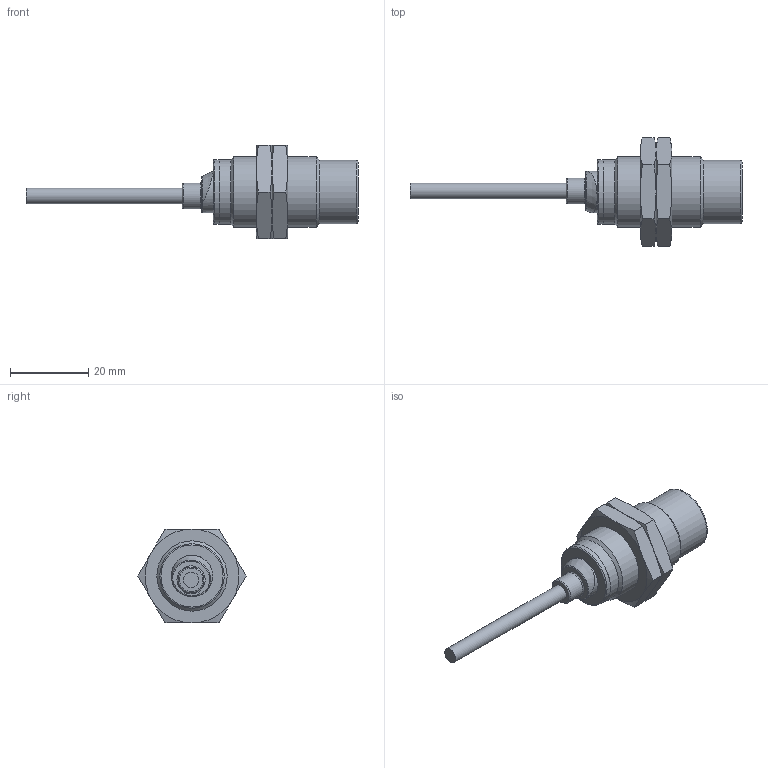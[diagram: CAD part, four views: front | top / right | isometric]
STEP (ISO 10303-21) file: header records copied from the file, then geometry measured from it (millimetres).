
FILE_DESCRIPTION( ( 'STEP AP203' ), '1' );
FILE_NAME( 'p:/temp/worker_56/1352_2536/app_50_02015052110520148262388192d056f_00_00_00_000/STEP/IGS249_2_03.stp', ' ', ( ' ' ), ( ' ' ), 'PSStep 15.0.47', 'PARTsolutions', ' ' );
FILE_SCHEMA( ( 'CONFIG_CONTROL_DESIGN' ) );
Length unit declared in the file: millimetre
Products named in the file (3): IGS249; _IGS249_p1; _IGS248_p2
Assembly tree (3 placements, depth 2):
  IGS249
    _IGS249_p1
    _IGS248_p2  x2
Bounding box: 85 x 27.71 x 24 mm (x, y, z)
Volume: 11868.4 mm3; surface area: 5222.8 mm2
Topology: 3 solids, 3 shells, 68 faces, 139 edges, 81 vertices
Faces by surface type: cone 31, plane 22, cylinder 9, torus 6
Full cylindrical faces by diameter (mm): 4 x1, 6.6 x1, 10.6 x1, 16.3 x1, 16.376 x2, 16.5 x1, 16.52 x1, 18 x1
Entity records: 1302 total; most frequent: CARTESIAN_POINT 357, DIRECTION 178, ORIENTED_EDGE 144, AXIS2_PLACEMENT_3D 86, EDGE_CURVE 72, EDGE_LOOP 67, FACE_OUTER_BOUND 57, VERTEX_POINT 51
